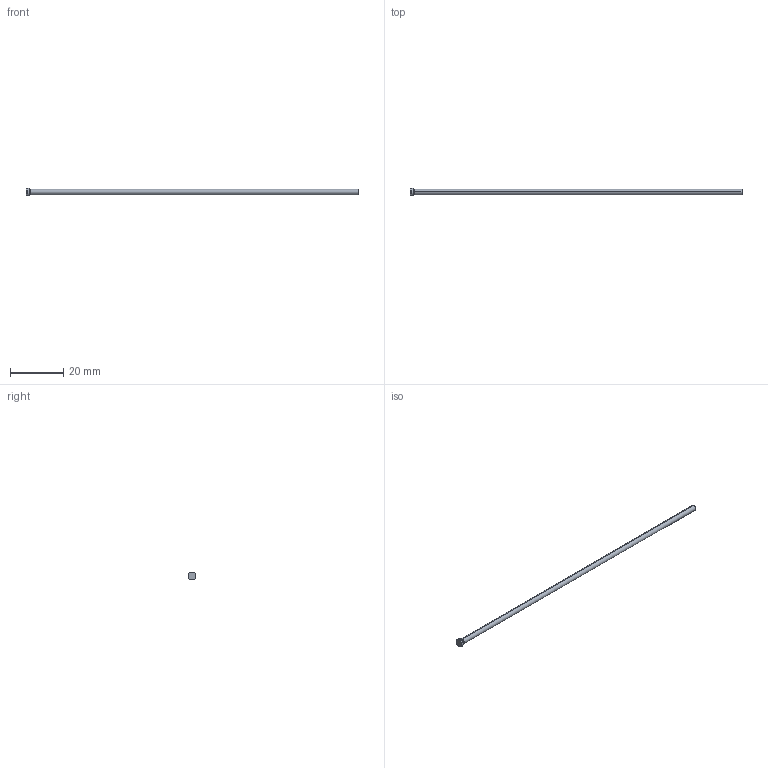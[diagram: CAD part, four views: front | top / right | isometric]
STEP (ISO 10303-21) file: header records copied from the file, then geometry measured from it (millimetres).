
FILE_DESCRIPTION (( 'STEP AP214' ), '1' );
FILE_NAME ('D-2,1x125.STEP', '2020-06-08T09:50:45', ( 'August' ), ( '' ), 'SwSTEP 2.0', 'SolidWorks 2018', '' );
FILE_SCHEMA (( 'AUTOMOTIVE_DESIGN' ));
Length unit declared in the file: millimetre
Products named in the file (1): D-2,1x125
Bounding box: 125 x 3 x 3 mm (x, y, z)
Volume: 436.7 mm3; surface area: 839.1 mm2
Topology: 1 solids, 1 shells, 10 faces, 18 edges, 10 vertices
Faces by surface type: cylinder 4, torus 2, cone 2, plane 2
Entity records: 280 total; most frequent: DIRECTION 52, CARTESIAN_POINT 39, ORIENTED_EDGE 36, AXIS2_PLACEMENT_3D 23, EDGE_CURVE 18, CIRCLE 12, EDGE_LOOP 10, FACE_OUTER_BOUND 10
